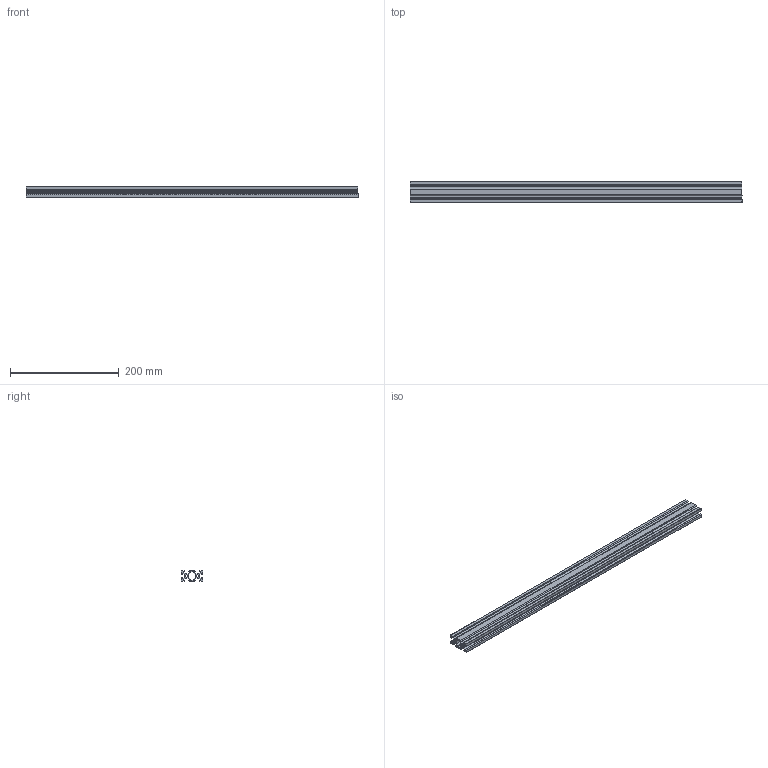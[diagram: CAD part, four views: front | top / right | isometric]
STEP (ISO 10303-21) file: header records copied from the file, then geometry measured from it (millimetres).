
FILE_DESCRIPTION(/* description */ ('STEP AP242 Edition 2','CAx-IF Rec.Pracs.---Representation and Presentation of Product Manufacturing Information (PMI)---4.0---2014-10-13','CAx-IF Rec.Pracs.---3D Tessellated Geometry---0.4---2014-09-14','2;1','CAx-IF Rec.Pracs.---User Defined Attributes---1.5---2016-08-15'),/* implementation_level */ '2;1');
FILE_NAME(/* name */ 'Final Build - rail-Y',/* time_stamp */ '2026-08-31T23:26:27Z',/* author */ (''),/* organization */ (''),/* preprocessor_version */ 'ST-DEVELOPER v20',/* originating_system */ 'ONSHAPE BY PTC INC, 1.220',/* authorisation */ ' ');
FILE_SCHEMA (('AP242_MANAGED_MODEL_BASED_3D_ENGINEERING_MIM_LF { 1 0 10303 442 3 1 4 }'));
Length unit declared in the file: metre
Products named in the file (1): rail-Y
Bounding box: 610 x 40 x 20 mm (x, y, z)
Volume: 182993.6 mm3; surface area: 181817.1 mm2
Topology: 1 solids, 1 shells, 114 faces, 336 edges, 224 vertices
Faces by surface type: plane 108, cylinder 6
Full cylindrical faces by diameter (mm): 4.2 x2
Entity records: 3756 total; most frequent: CARTESIAN_POINT 673, ORIENTED_EDGE 668, DIRECTION 576, EDGE_CURVE 334, LINE 322, VECTOR 322, VERTEX_POINT 224, AXIS2_PLACEMENT_3D 127
